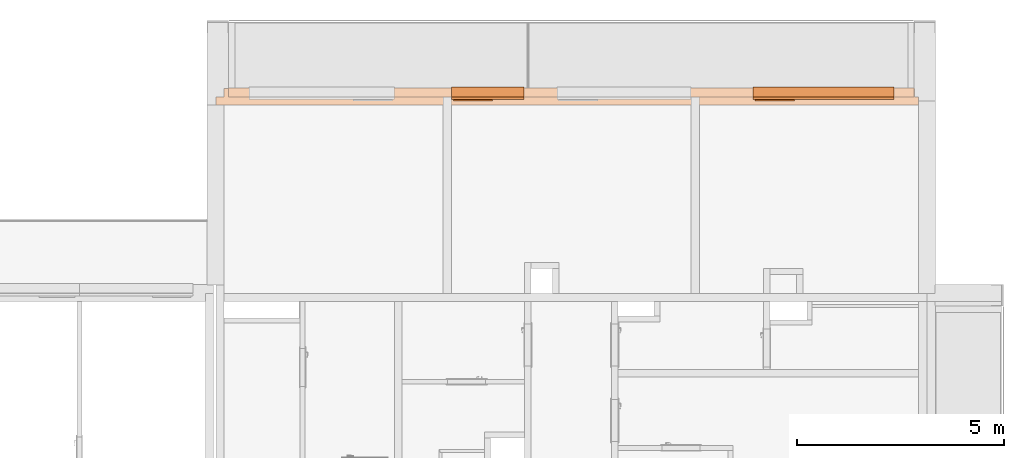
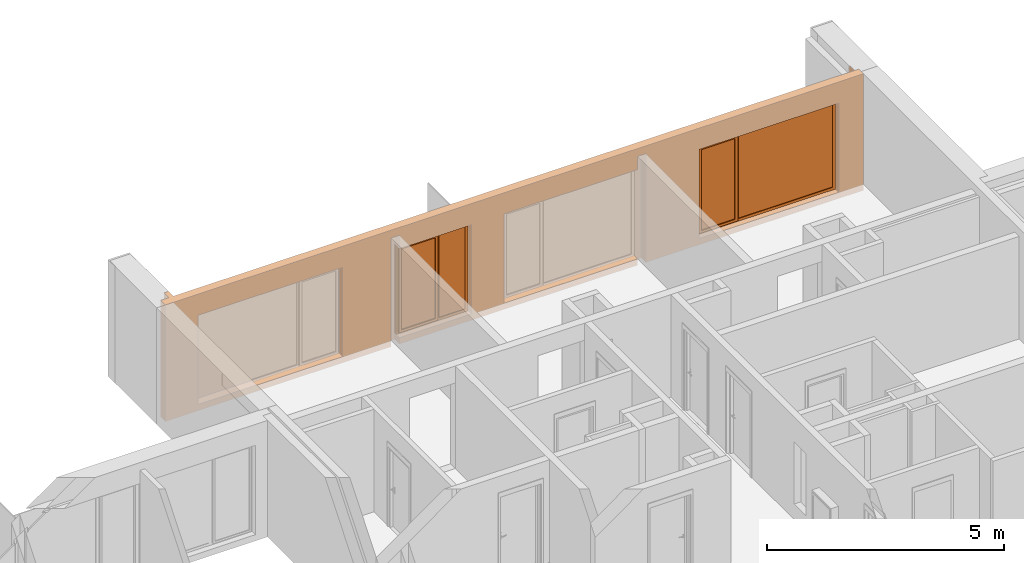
# One storey, part 49 of 64: 2 proxies, 4 openings, plus 1 element that does not belong to this part.
"""IFC2X3 building model written with IfcOpenShell, lengths in millimetres."""

import ifcopenshell
import ifcopenshell.guid

model = None  # the IFC model being written
_history = None  # IfcOwnerHistory: only IFC2X3 demands one
_inside = {}  # id of a spatial element -> (the spatial element, [elements in it])
_under = {}  # id of a project, library or spatial element -> (it, [spatial elements below it])
_declared = {}  # id of a project -> (the project, [libraries it declares])
_typed = {}  # id of a type object -> (the type object, [elements of that type])
_made_of = {}  # id of a material, layer set ... -> (it, [elements and type objects made of it])


def new_model(schema):
    """Start an empty IFC model of exactly this schema.

    Asked for "IFC4X3", IfcOpenShell would pick the latest addendum, in which some entities
    have other attributes; the version numbers below select the first issue.
    IFC2X3 requires an IfcOwnerHistory on every rooted entity: one is made here for all.
    """
    global model, _history
    if schema == "IFC4X3":
        model = ifcopenshell.file(schema_version=(4, 3, 0, 0))
    else:
        model = ifcopenshell.file(schema=schema)
    _inside.clear()
    _under.clear()
    _declared.clear()
    _typed.clear()
    _made_of.clear()
    _history = None
    if model.schema == "IFC2X3":
        org = make("IfcOrganization", Name="unknown")
        user = make(
            "IfcPersonAndOrganization",
            ThePerson=make("IfcPerson", FamilyName="unknown"),
            TheOrganization=org,
        )
        app = make(
            "IfcApplication",
            ApplicationDeveloper=org,
            Version="unknown",
            ApplicationFullName="unknown",
            ApplicationIdentifier="unknown",
        )
        _history = make(
            "IfcOwnerHistory",
            OwningUser=user,
            OwningApplication=app,
            ChangeAction="ADDED",
            CreationDate=0,
        )
    return model


def make(cls, **values):
    """One entity of the class cls with the attributes given. An attribute that is None is left unset."""
    return model.create_entity(
        cls, **{name: value for name, value in values.items() if value is not None}
    )


def entity(cls, *values):
    """Any entity or typed value of the class cls, its attributes in the order of the schema. None: left unset."""
    e = model.create_entity(cls)
    for i, value in enumerate(values):
        if value is not None:
            e[i] = value
    return e


def rooted(cls, **values):
    """An entity with a GlobalId (a new one), such as an element, a storey or a relation."""
    return make(cls, GlobalId=ifcopenshell.guid.new(), OwnerHistory=_history, **values)


def si_unit(unit_type, name, prefix=None):
    """IfcSIUnit, for example si_unit("LENGTHUNIT", "METRE", prefix="MILLI")."""
    return make("IfcSIUnit", UnitType=unit_type, Prefix=prefix, Name=name)


def converted_unit(unit_type, name, factor, base, dimensions=None, offset=None):
    """IfcConversionBasedUnit, such as the inch: factor (a typed value) times the base unit."""
    return make(
        "IfcConversionBasedUnit"
        if offset is None
        else "IfcConversionBasedUnitWithOffset",
        ConversionOffset=offset,
        Dimensions=None
        if dimensions is None
        else entity("IfcDimensionalExponents", *dimensions),
        UnitType=unit_type,
        Name=name,
        ConversionFactor=make(
            "IfcMeasureWithUnit", ValueComponent=factor, UnitComponent=base
        ),
    )


def derived_unit(unit_type, elements):
    """IfcDerivedUnit: a product of units, each with its exponent."""
    return make(
        "IfcDerivedUnit",
        Elements=[
            make("IfcDerivedUnitElement", Unit=unit, Exponent=power)
            for unit, power in elements
        ],
        UnitType=unit_type,
    )


def money_unit(currency):
    """IfcMonetaryUnit."""
    return make("IfcMonetaryUnit", Currency=currency)


def assignment(units):
    """IfcUnitAssignment: the units of a project."""
    return None if units is None else make("IfcUnitAssignment", Units=units)


def point(xyz):
    """IfcCartesianPoint."""
    return None if xyz is None else make("IfcCartesianPoint", Coordinates=xyz)


def direction(xyz):
    """IfcDirection."""
    return None if xyz is None else make("IfcDirection", DirectionRatios=xyz)


def frame(location, z_axis=None, x_axis=None):
    """IfcAxis2Placement3D, a coordinate frame: its origin and axes. An axis left out is left unset."""
    return make(
        "IfcAxis2Placement3D",
        Location=point(location),
        Axis=direction(z_axis),
        RefDirection=direction(x_axis),
    )


def frame_2d(location, x_axis=None):
    """IfcAxis2Placement2D, a coordinate frame in the plane: its origin and x axis."""
    return make(
        "IfcAxis2Placement2D", Location=point(location), RefDirection=direction(x_axis)
    )


def origin_with_axes():
    """The frame at (0, 0, 0) with the z axis (0, 0, 1) and the x axis (1, 0, 0) written out."""
    return frame((0.0, 0.0, 0.0), z_axis=(0.0, 0.0, 1.0), x_axis=(1.0, 0.0, 0.0))


def origin_2d_with_axis():
    """The frame at (0, 0) in the plane with the x axis (1, 0) written out."""
    return frame_2d((0.0, 0.0), x_axis=(1.0, 0.0))


def place(relative_to, where):
    """IfcLocalPlacement: puts the frame where relative to a parent placement (None: the world)."""
    return make(
        "IfcLocalPlacement", PlacementRelTo=relative_to, RelativePlacement=where
    )


def context(
    kind, dimensions, precision=None, world=None, true_north=None, identifier=None
):
    """IfcGeometricRepresentationContext, for example the 3D "Model" context."""
    return make(
        "IfcGeometricRepresentationContext",
        ContextIdentifier=identifier,
        ContextType=kind,
        CoordinateSpaceDimension=dimensions,
        Precision=precision,
        WorldCoordinateSystem=world,
        TrueNorth=true_north,
    )


def subcontext(parent, identifier, kind, view, scale=None):
    """IfcGeometricRepresentationSubContext, for example "Body" below "Model"."""
    return make(
        "IfcGeometricRepresentationSubContext",
        ContextIdentifier=identifier,
        ContextType=kind,
        ParentContext=parent,
        TargetScale=scale,
        TargetView=view,
    )


def project(units=None, contexts=None):
    """IfcProject with its units and contexts."""
    return rooted(
        "IfcProject",
        Name="project",
        RepresentationContexts=contexts,
        UnitsInContext=assignment(units),
    )


def spatial(cls, under=None, at=None, **own):
    """A site, building, storey or space (cls), placed at a placement, below another one or the project."""
    s = rooted(cls, ObjectPlacement=at, **own)
    if under is not None:
        _under.setdefault(under.id(), (under, []))[1].append(s)
    return s


def profile(cls, at=None, kind="AREA", **sizes):
    """A parametric profile (cls). Its sizes go by their IFC names, for example OverallWidth=200.0."""
    return make(cls, ProfileType=kind, Position=at, **sizes)


def rectangle(**sizes):
    """IfcRectangleProfileDef."""
    return profile("IfcRectangleProfileDef", **sizes)


def extrude(swept, where, along, depth):
    """IfcExtrudedAreaSolid: the profile swept, set in the frame where, extruded along a direction by depth."""
    return make(
        "IfcExtrudedAreaSolid",
        SweptArea=swept,
        Position=where,
        ExtrudedDirection=direction(along),
        Depth=depth,
    )


def faces_of(points, faces, orient=None, outer=None):
    """IfcFace entities. A face is a list of loops; a loop is a list of indices into points, from 0.

    orient and outer hold one flag for each loop. By default every Orientation is true, the
    first loop of a face is its IfcFaceOuterBound and the others are IfcFaceBound.
    """
    made = []
    for i, loops in enumerate(faces):
        bounds = []
        for j, loop in enumerate(loops):
            is_outer = j == 0 if outer is None else outer[i][j]
            bounds.append(
                make(
                    "IfcFaceOuterBound" if is_outer else "IfcFaceBound",
                    Bound=make("IfcPolyLoop", Polygon=[points[k] for k in loop]),
                    Orientation=True if orient is None else orient[i][j],
                )
            )
        made.append(make("IfcFace", Bounds=bounds))
    return made


def open_shell(faces, orient=None, outer=None):
    """The faces of one IfcOpenShell. surface_model builds it on its shared points."""
    return ("IfcOpenShell", faces, orient, outer)


def faceted_brep(points, faces, orient=None, outer=None, voids=None):
    """IfcFacetedBrep: a solid bounded by flat faces; with voids (closed shells), ...WithVoids."""
    shared = [point(p) for p in points]
    hull = make("IfcClosedShell", CfsFaces=faces_of(shared, faces, orient, outer))
    if voids is None:
        return make("IfcFacetedBrep", Outer=hull)
    return make(
        "IfcFacetedBrepWithVoids",
        Outer=hull,
        Voids=[
            make(cls, CfsFaces=faces_of(shared, fs, o, b)) for cls, fs, o, b in voids
        ],
    )


def surface_model(cls, points, shells):
    """IfcFaceBasedSurfaceModel or IfcShellBasedSurfaceModel (cls): surfaces that need not close."""
    shared = [point(p) for p in points]
    made = [make(c, CfsFaces=faces_of(shared, fs, o, b)) for c, fs, o, b in shells]
    if cls == "IfcFaceBasedSurfaceModel":
        return make(cls, FbsmFaces=made)
    return make(cls, SbsmBoundary=made)


def shape(context_of_items, identifier, shape_type, items):
    """IfcShapeRepresentation: the items that make up one representation, for example the "Body"."""
    return make(
        "IfcShapeRepresentation",
        ContextOfItems=context_of_items,
        RepresentationIdentifier=identifier,
        RepresentationType=shape_type,
        Items=items,
    )


def source(mapping_origin, context_of_items, identifier, shape_type, items):
    """IfcRepresentationMap: a shape defined once, which mapped items show again and again."""
    return make(
        "IfcRepresentationMap",
        MappingOrigin=mapping_origin,
        MappedRepresentation=shape(context_of_items, identifier, shape_type, items),
    )


def transform(
    local_origin,
    x_axis=None,
    y_axis=None,
    z_axis=None,
    scale=None,
    scale2=None,
    scale3=None,
    uniform=True,
):
    """IfcCartesianTransformationOperator3D, or its non-uniform kind. x_axis, y_axis, z_axis: its Axis1, 2, 3."""
    if uniform:
        return make(
            "IfcCartesianTransformationOperator3D",
            Axis1=direction(x_axis),
            Axis2=direction(y_axis),
            LocalOrigin=point(local_origin),
            Scale=scale,
            Axis3=direction(z_axis),
        )
    return make(
        "IfcCartesianTransformationOperator3DnonUniform",
        Axis1=direction(x_axis),
        Axis2=direction(y_axis),
        LocalOrigin=point(local_origin),
        Scale=scale,
        Axis3=direction(z_axis),
        Scale2=scale2,
        Scale3=scale3,
    )


def mapped(mapping_source, mapping_target):
    """IfcMappedItem: shows the shape of a source again, moved by a transform."""
    return make(
        "IfcMappedItem", MappingSource=mapping_source, MappingTarget=mapping_target
    )


def material(Name=None, Category=None):
    """IfcMaterial."""
    return make("IfcMaterial", Name=Name, Category=Category)


def material_list(materials):
    """IfcMaterialList."""
    return make("IfcMaterialList", Materials=materials)


def made_of(thing, what):
    """Note that an element or type object is made of a material, layer set ...; save() writes the relation."""
    if what is not None:
        _made_of.setdefault(what.id(), (what, []))[1].append(thing)
    return thing


def type_object(cls, material=None, **own):
    """A type object (cls), such as IfcWallType, which elements share."""
    return made_of(rooted(cls, **own), material)


def element(
    cls,
    number,
    at=None,
    inside=None,
    cuts=None,
    type_object=None,
    material=None,
    context=None,
    identifier="Body",
    shape_type=None,
    held_by="IfcProductDefinitionShape",
    body=None,
    shapes=None,
    **own,
):
    """One element of the class cls, such as IfcWall. Its Tag is "e" and its number.

    at: its placement. inside: the storey or other place that contains it. cuts: it is an
    opening in that element (IfcRelVoidsElement). A single representation is given by context,
    identifier, shape_type and body (its items); several are given by shapes. held_by: the class
    of the entity that holds the representations. save() writes the other relations.
    """
    e = rooted(cls, Tag="e%d" % number, ObjectPlacement=at, **own)
    if body is not None:
        shapes = [shape(context, identifier, shape_type, body)]
    if shapes is not None:
        e.Representation = make(held_by, Representations=shapes)
    if inside is not None:
        _inside.setdefault(inside.id(), (inside, []))[1].append(e)
    if cuts is not None:
        rooted(
            "IfcRelVoidsElement", RelatingBuildingElement=cuts, RelatedOpeningElement=e
        )
    if type_object is not None:
        _typed.setdefault(type_object.id(), (type_object, []))[1].append(e)
    return made_of(e, material)


def fill(opening, filler):
    """IfcRelFillsElement: the door or window that sits in an opening."""
    return rooted(
        "IfcRelFillsElement",
        RelatingOpeningElement=opening,
        RelatedBuildingElement=filler,
    )


def aggregate(whole, parts):
    """IfcRelAggregates: a whole, such as a stair, and the parts it consists of."""
    return rooted("IfcRelAggregates", RelatingObject=whole, RelatedObjects=parts)


def save(model, path):
    """Write the relations noted so far, then the file.

    IfcRelAggregates (storeys below a building ...), IfcRelContainedInSpatialStructure (elements
    in a storey), IfcRelDefinesByType, IfcRelAssociatesMaterial and IfcRelDeclares: one each for
    every whole, place, type object, material and project.
    """
    for whole, parts in _under.values():
        aggregate(whole, parts)
    for where, things in _inside.values():
        rooted(
            "IfcRelContainedInSpatialStructure",
            RelatedElements=things,
            RelatingStructure=where,
        )
    for kind, things in _typed.values():
        rooted("IfcRelDefinesByType", RelatedObjects=things, RelatingType=kind)
    for what, things in _made_of.values():
        rooted("IfcRelAssociatesMaterial", RelatedObjects=things, RelatingMaterial=what)
    for by, libraries in _declared.values():
        rooted("IfcRelDeclares", RelatingContext=by, RelatedDefinitions=libraries)
    model.write(path)


model = new_model("IFC2X3")

# Units and contexts
model_context = context("Model", 3, precision=0.01, world=origin_with_axes(), true_north=direction((0.34421633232, 0.938890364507)))
body_context = subcontext(model_context, "Body", "Model", "MODEL_VIEW")
ifc_project = project(units=[si_unit("LENGTHUNIT", "METRE", prefix="MILLI"), si_unit("AREAUNIT", "SQUARE_METRE"), si_unit("VOLUMEUNIT", "CUBIC_METRE"), converted_unit("PLANEANGLEUNIT", "DEGREE", entity("IfcPlaneAngleMeasure", 0.0174532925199), si_unit("PLANEANGLEUNIT", "RADIAN"), dimensions=[0, 0, 0, 0, 0, 0, 0]), si_unit("SOLIDANGLEUNIT", "STERADIAN"), money_unit("USD"), converted_unit("TIMEUNIT", "Year", entity("IfcTimeMeasure", 31556926.0), si_unit("TIMEUNIT", "SECOND"), dimensions=[0, 0, 1, 0, 0, 0, 0]), si_unit("MASSUNIT", "GRAM", prefix="KILO"), si_unit("THERMODYNAMICTEMPERATUREUNIT", "DEGREE_CELSIUS"), si_unit("LUMINOUSINTENSITYUNIT", "LUMEN"), si_unit("ENERGYUNIT", "JOULE", prefix="MEGA"), derived_unit("THERMALCONDUCTANCEUNIT", [(si_unit("POWERUNIT", "WATT"), 1), (si_unit("LENGTHUNIT", "METRE"), -1), (si_unit("THERMODYNAMICTEMPERATUREUNIT", "KELVIN"), -1)]), derived_unit("SPECIFICHEATCAPACITYUNIT", [(si_unit("ENERGYUNIT", "JOULE"), 1), (si_unit("MASSUNIT", "GRAM", prefix="KILO"), -1), (si_unit("THERMODYNAMICTEMPERATUREUNIT", "KELVIN"), -1)]), derived_unit("MASSDENSITYUNIT", [(si_unit("MASSUNIT", "GRAM", prefix="KILO"), 1), (si_unit("VOLUMEUNIT", "CUBIC_METRE"), -1)])], contexts=[model_context])

# Site, building, storey
site_placement = place(None, origin_with_axes())
site = spatial("IfcSite", under=ifc_project, at=site_placement, Name="USTRONIE MORSKIE", CompositionType="ELEMENT")
building_placement = place(site_placement, origin_with_axes())
building = spatial("IfcBuilding", under=site, at=building_placement, Name="Budynek", CompositionType="ELEMENT")
storey_placement = place(building_placement, frame((0.0, 0.0, 7000.0), z_axis=(0.0, 0.0, 1.0), x_axis=(1.0, 0.0, 0.0)))
storey = spatial("IfcBuildingStorey", under=building, at=storey_placement, Name="PIĘTRO 2", CompositionType="ELEMENT", Elevation=7000.0)

# Proxies, openings
ifc_material_1 = material(Name="Beton konstrukcyjny B25")
ifc_material_2 = material(Name="Wełna ELEW")
ifc_material_3 = material(Name="Tynk zewnętrzny")
ifc_material_list = material_list([ifc_material_1, ifc_material_2, ifc_material_3])
building_element_proxy_type_1 = type_object("IfcBuildingElementProxyType", Name="20+20 410", PredefinedType="NOTDEFINED")
proxy_1_placement = place(storey_placement, frame((425567.928129, 749451.184716, -160.0), z_axis=(0.0, 0.0, 1.0), x_axis=(-1.0, 8.42333606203e-07, 0.0)))
proxy_1 = element("IfcBuildingElementProxy", 1, at=proxy_1_placement, inside=storey, type_object=building_element_proxy_type_1, material=ifc_material_list, Name="SZ-01", context=body_context, shape_type="Brep", body=[
    faceted_brep([(11400.0072945, -100.0, 0.0), (11400.0072945, -99.9999999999, 2800.0), (11600.0072945, -99.9999999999, 2800.0), (11600.0072945, -100.0, 0.0), (17100.0072945, -100.0, -4.94591034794e-08), (17100.0072945, -100.0, 3000.0), (100.007294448, -99.9999999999, 3000.0), (100.007294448, -99.9999999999, -1.44982692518e-07), (5400.00729445, -100.0, 0.0), (5400.00729445, -100.0, 2800.0), (5600.00729445, -100.0, 2800.0), (5600.00729445, -100.0, 0.0), (11400.007126, 100.0, 0.0), (11400.007126, 100.0, 2800.0), (11600.007126, 100.0, 2800.0), (11600.007126, 100.0, 0.0), (17100.007126, 100.0, -4.94591034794e-08), (17100.007126, 100.0, 3000.0), (100.007125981, 100.0, 3000.0), (100.007210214, 8.42334202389e-05, 3000.0), (100.007210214, 8.42334202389e-05, 0.0), (100.007125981, 100.0, 0.0), (5400.00712598, 100.0, 0.0), (5400.00712598, 100.0, 2800.0), (5600.00712598, 100.0, 2800.0), (5600.00712598, 100.0, 0.0)], [[[0, 1, 2, 3, 4, 5, 6, 7, 8, 9, 10, 11]], [[12, 13, 1, 0]], [[13, 14, 2, 1]], [[14, 15, 3, 2]], [[16, 4, 3, 15]], [[4, 16, 17, 5]], [[5, 17, 18, 19, 6]], [[19, 20, 7, 6]], [[20, 21, 22, 8, 7]], [[22, 23, 9, 8]], [[23, 24, 10, 9]], [[24, 25, 11, 10]], [[11, 25, 12, 0]], [[15, 14, 13, 12, 25, 24, 23, 22, 21, 18, 17, 16]], [[21, 20, 19, 18]]]),
    faceted_brep([(16900.0072945, -100.0, -8.13678013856e-08), (16900.0072945, -100.0, 3000.0), (16900.0074629, -300.0, 3000.0), (16900.0074629, -300.0, -8.13678013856e-08), (200.007294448, -99.9999999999, -2.8271545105e-06), (200.007294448, -99.9999999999, 3000.0), (1425.3540558, -99.9999999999, 3000.0), (1425.3540558, -99.9999999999, 2799.99999896), (16790.1383035, -100.0, 2799.99999896), (16790.1383035, -100.0, 3000.0), (16790.1393008, -199.846511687, 3000.00002271), (16790.1402996, -299.846536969, 3000.00002271), (16790.1403011, -300.0, 2999.99999495), (16790.1403011, -300.0, 9.99999623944), (16790.1403011, -300.0, 2.27125616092e-05), (16790.1403011, -300.0, 2800.00001288), (210.140300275, -300.0, 2800.00001286), (210.140300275, -300.0, 3000.0), (200.007462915, -300.0, 3000.0), (200.007462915, -300.0, -2.8271545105e-06), (1425.04762404, -300.0, 2.27125616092e-05), (1422.91502502, -300.0, 9.99999623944), (16790.1402996, -299.846536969, 2.27125616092e-05), (210.139301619, -200.012108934, 3000.00002271), (210.138302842, -100.012137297, 3000.00002048), (210.138302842, -100.012137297, 2799.99999896), (210.139301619, -200.012108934, 2799.99999896), (16790.1393008, -199.846511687, 2799.99999896), (16790.1402996, -299.84651567, 9.99999623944)], [[[0, 1, 2, 3]], [[1, 0, 4, 5, 6, 7, 8, 9]], [[10, 11, 12, 2, 1, 9]], [[13, 14, 3, 2, 12, 15, 16, 17, 18, 19, 20, 21]], [[0, 3, 14, 22, 20, 19, 4]], [[5, 4, 19, 18]], [[6, 5, 18, 17, 23, 24]], [[7, 6, 24, 25]], [[26, 27, 8, 7, 25]], [[11, 10, 9, 8, 27, 15, 12]], [[28, 22, 14, 13]], [[27, 26, 16, 15]], [[16, 26, 25, 24, 23, 17]], [[22, 28, 21, 20]], [[28, 13, 21]]]),
    faceted_brep([(16800.0074629, -300.0, -9.73230385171e-08), (16800.0074713, -310.0, -9.73230385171e-08), (16790.140401, -310.0, -9.89466286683e-08), (16790.1403011, -300.0, -9.89466286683e-08), (16800.0074629, -300.0, 3000.0), (16800.0074713, -310.0, 3000.0), (16790.140401, -310.0, 9.99999623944), (16790.140401, -310.0, 2999.9999951), (16790.140401, -310.0, 2789.99999183), (1365.56748394, -310.0, 2789.99999183), (1414.0415408, -310.0, 2800.00001425), (210.140400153, -310.0, 2800.00001425), (210.140400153, -310.0, 2999.9999951), (210.007471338, -310.0, 3000.0), (210.007471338, -310.0, -2.8271545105e-06), (210.140400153, -310.0, 2.27125616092e-05), (210.140400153, -310.0, 9.99999623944), (16790.1403011, -300.0, 9.99999623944), (1422.91503021, -300.0, 9.99999623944), (1422.91503018, -300.0, -2.62757460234e-06), (210.007462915, -300.0, -2.8271545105e-06), (210.007462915, -300.0, 3000.0), (210.140300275, -300.0, 3000.0), (210.140300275, -300.0, 2800.00001286), (16790.1403011, -300.0, 2800.00001288), (16790.1403011, -300.0, 2999.99999495), (16790.1403994, -309.845942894, 2789.99999183), (16790.1403994, -309.846427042, 2800.00001425), (210.140300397, -300.012134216, 3000.00002271), (210.140300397, -300.012134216, 2.27125616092e-05), (210.140300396, -300.012112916, 9.99999623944)], [[[0, 1, 2, 3]], [[0, 4, 5, 1]], [[6, 2, 1, 5, 7, 8, 9, 10, 11, 12, 13, 14, 15, 16]], [[2, 6, 17, 3]], [[4, 0, 3, 17, 18, 19, 20, 21, 22, 23, 24, 25]], [[25, 7, 5, 4]], [[26, 8, 7, 25, 24, 27]], [[8, 26, 9]], [[26, 27, 10, 9]], [[27, 24, 23, 11, 10]], [[12, 11, 23, 22, 28]], [[12, 28, 22, 21, 13]], [[21, 20, 14, 13]], [[19, 29, 15, 14, 20]], [[16, 15, 29, 30]], [[17, 6, 16, 30, 18]], [[29, 19, 18, 30]]]),
])
opening_1_placement = place(proxy_1_placement, frame((14540.0100422, 0.0, 160.0), z_axis=(0.0, 0.0, 1.0), x_axis=(1.0, 0.0, 0.0)))
element("IfcOpeningElement", 2, at=opening_1_placement, cuts=proxy_1, Name="Wz.02", context=body_context, shape_type="SweptSolid", body=[
    extrude(rectangle(XDim=3520.00004519, YDim=2300.0, at=origin_2d_with_axis()), frame((0.0, -100.0, 1150.0), z_axis=(0.0, -1.0, 0.0), x_axis=(-1.0, 0.0, 0.0)), (0.0, 0.0, 1.0), 620.0),
    extrude(rectangle(XDim=3520.00004519, YDim=2300.0, at=origin_2d_with_axis()), frame((0.0, -100.0, 1150.0), z_axis=(0.0, 1.0, 0.0), x_axis=(-1.0, 0.0, 0.0)), (0.0, 0.0, 1.0), 610.0),
])
opening_2_placement = place(proxy_1_placement, frame((7225.00654666, 0.0, 160.0), z_axis=(0.0, 0.0, 1.0), x_axis=(1.0, 0.0, 0.0)))
element("IfcOpeningElement", 3, at=opening_2_placement, cuts=proxy_1, Name="Wz.02", context=body_context, shape_type="SweptSolid", body=[
    extrude(rectangle(XDim=3249.99884135, YDim=2300.0, at=origin_2d_with_axis()), frame((0.0, -100.0, 1150.0), z_axis=(0.0, 1.0, 0.0), x_axis=(1.0, 0.0, 0.0)), (0.0, 0.0, -1.0), 620.0),
    extrude(rectangle(XDim=3249.99884135, YDim=2300.0, at=origin_2d_with_axis()), frame((-1.13686837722e-10, -100.0, 1150.0), z_axis=(0.0, -1.0, 0.0), x_axis=(1.0, 0.0, 0.0)), (0.0, 0.0, -1.0), 610.0),
])
opening_3_placement = place(proxy_1_placement, frame((2400.00971943, 1.13686837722e-10, 160.0), z_axis=(0.0, 0.0, 1.0), x_axis=(1.0, 0.0, 0.0)))
opening_3 = element("IfcOpeningElement", 4, at=opening_3_placement, cuts=proxy_1, Name="Wz.02", context=body_context, shape_type="SweptSolid", body=[
    extrude(rectangle(XDim=3400.0, YDim=2300.0, at=origin_2d_with_axis()), frame((0.0, -100.0, 1150.0), z_axis=(0.0, 1.0, 0.0), x_axis=(1.0, 0.0, 0.0)), (0.0, 0.0, -1.0), 620.0),
    extrude(rectangle(XDim=3400.0, YDim=2300.0, at=origin_2d_with_axis()), frame((0.0, -100.0, 1150.0), z_axis=(0.0, -1.0, 0.0), x_axis=(1.0, 0.0, 0.0)), (0.0, 0.0, -1.0), 610.0),
])
opening_4_placement = place(proxy_1_placement, frame((10525.0074713, 1.13686837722e-10, 160.0), z_axis=(0.0, 0.0, 1.0), x_axis=(1.0, 0.0, 0.0)))
opening_4 = element("IfcOpeningElement", 5, at=opening_4_placement, cuts=proxy_1, Name="Wz.01", context=body_context, shape_type="SweptSolid", body=[
    extrude(rectangle(XDim=1750.0, YDim=2300.0, at=origin_2d_with_axis()), frame((0.0, -100.0, 1150.0), z_axis=(0.0, 1.0, 0.0), x_axis=(1.0, 0.0, 0.0)), (0.0, 0.0, -1.0), 620.0),
    extrude(rectangle(XDim=1750.0, YDim=2300.0, at=origin_2d_with_axis()), frame((0.0, -100.0, 1150.0), z_axis=(0.0, -1.0, 0.0), x_axis=(1.0, 0.0, 0.0)), (0.0, 0.0, -1.0), 610.0),
])
building_element_proxy_type_2 = type_object("IfcBuildingElementProxyType", Name="Okno podwójne 23", PredefinedType="NOTDEFINED")
shared_shape_1 = source(origin_with_axes(), body_context, "Body", "SurfaceModel", [
    surface_model("IfcShellBasedSurfaceModel", [(-875.0, -66.0, 50.0), (-875.0, -66.0, 40.0), (875.0, -66.0, 40.0), (875.0, -66.0, 50.0), (-875.0, -305.0, 28.5714285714), (875.0, -305.0, 28.5714285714), (-875.0, -305.0, 8.57142857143), (875.0, -305.0, 8.57142857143), (-875.0, -295.0, 18.5714285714), (875.0, -295.0, 18.5714285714)], [open_shell([[[0, 1, 2, 3]], [[1, 4, 5, 2]], [[4, 6, 7, 5]], [[6, 8, 9, 7]]])]),
    faceted_brep([(805.0, -25.0, 2230.0), (805.0, -65.0, 2230.0), (875.0, -65.0, 2230.0), (875.0, 0.0, 2230.0), (830.0, 0.0, 2230.0), (830.0, -25.0, 2230.0), (805.0, -25.0, 70.0), (805.0, -65.0, 70.0), (875.0, -65.0, 70.0), (875.0, 0.0, 70.0), (830.0, 0.0, 70.0), (830.0, -25.0, 70.0)], [[[0, 1, 2, 3, 4, 5]], [[6, 7, 1, 0]], [[8, 2, 1, 7]], [[9, 3, 2, 8]], [[4, 3, 9, 10]], [[10, 11, 5, 4]], [[5, 11, 6, 0]], [[11, 10, 9, 8, 7, 6]]]),
    faceted_brep([(-122.5, 0.0, 2230.0), (-162.5, 0.0, 2230.0), (-162.5, -65.0, 2230.0), (-97.5, -65.0, 2230.0), (-97.5, -25.0, 2230.0), (-122.5, -25.0, 2230.0), (-122.5, 0.0, 70.0), (-162.5, 0.0, 70.0), (-162.5, -65.0, 70.0), (-97.5, -65.0, 70.0), (-97.5, -25.0, 70.0), (-122.5, -25.0, 70.0)], [[[0, 1, 2, 3, 4, 5]], [[6, 7, 1, 0]], [[1, 7, 8, 2]], [[9, 3, 2, 8]], [[4, 3, 9, 10]], [[10, 11, 5, 4]], [[5, 11, 6, 0]], [[11, 10, 9, 8, 7, 6]]]),
    faceted_brep([(805.0, -25.0, 70.0), (805.0, -65.0, 70.0), (875.0, -65.0, 70.0), (875.0, 0.0, 70.0), (830.0, 0.0, 70.0), (830.0, -25.0, 70.0), (-97.5, -25.0, 70.0), (-97.5, -65.0, 70.0), (-875.0, -65.0, 70.0), (-875.0, -65.0, 0.0), (875.0, -65.0, 0.0), (-162.5, -65.0, 70.0), (-805.0, -65.0, 70.0), (875.0, 0.0, 0.0), (-122.5, 0.0, 45.0), (830.0, 0.0, 45.0), (-875.0, 0.0, 0.0), (-875.0, 0.0, 70.0), (-805.0, 0.0, 70.0), (-162.5, 0.0, 70.0), (-122.5, 0.0, 70.0), (830.0, -25.0, 45.0), (-122.5, -25.0, 45.0), (-122.5, -25.0, 70.0)], [[[0, 1, 2, 3, 4, 5]], [[6, 7, 1, 0]], [[8, 9, 10, 2, 1, 7, 11, 12]], [[13, 3, 2, 10]], [[14, 15, 4, 3, 13, 16, 17, 18, 19, 20]], [[15, 21, 5, 4]], [[5, 21, 22, 23, 6, 0]], [[23, 20, 19, 11, 7, 6]], [[17, 16, 9, 8]], [[16, 13, 10, 9]], [[19, 18, 12, 11]], [[18, 17, 8, 12]], [[14, 22, 21, 15]], [[23, 22, 14, 20]]]),
    faceted_brep([(-122.5, 0.0, 2230.0), (-162.5, 0.0, 2230.0), (-805.0, 0.0, 2230.0), (-875.0, 0.0, 2230.0), (-875.0, 0.0, 2300.0), (875.0, 0.0, 2300.0), (875.0, 0.0, 2230.0), (830.0, 0.0, 2230.0), (830.0, 0.0, 2255.0), (-122.5, 0.0, 2255.0), (-122.5, -25.0, 2230.0), (-97.5, -25.0, 2230.0), (-97.5, -65.0, 2230.0), (-162.5, -65.0, 2230.0), (-805.0, -65.0, 2230.0), (-875.0, -65.0, 2230.0), (-875.0, -65.0, 2300.0), (875.0, -65.0, 2300.0), (875.0, -65.0, 2230.0), (830.0, -25.0, 2230.0), (805.0, -65.0, 2230.0), (805.0, -25.0, 2230.0), (830.0, -25.0, 2255.0), (-122.5, -25.0, 2255.0)], [[[0, 1, 2, 3, 4, 5, 6, 7, 8, 9]], [[10, 11, 12, 13, 1, 0]], [[2, 1, 13, 14]], [[3, 2, 14, 15]], [[4, 3, 15, 16]], [[5, 4, 16, 17]], [[6, 5, 17, 18]], [[19, 7, 6, 18, 20, 21]], [[7, 19, 22, 8]], [[8, 22, 23, 9]], [[9, 23, 10, 0]], [[21, 11, 10, 23, 22, 19]], [[21, 20, 12, 11]], [[12, 20, 18, 17, 16, 15, 14, 13]]]),
    faceted_brep([(-805.0, -65.0, 2230.0), (-805.0, 0.0, 2230.0), (-875.0, 0.0, 2230.0), (-875.0, -65.0, 2230.0), (-805.0, -65.0, 70.0), (-805.0, 0.0, 70.0), (-875.0, 0.0, 70.0), (-875.0, -65.0, 70.0)], [[[0, 1, 2, 3]], [[4, 5, 1, 0]], [[1, 5, 6, 2]], [[3, 2, 6, 7]], [[0, 3, 7, 4]], [[7, 6, 5, 4]]]),
    surface_model("IfcShellBasedSurfaceModel", [(-805.0, -35.0, 70.0), (-162.5, -35.0, 70.0), (-162.5, -35.0, 2230.0), (-805.0, -35.0, 2230.0)], [open_shell([[[0, 1, 2, 3]]])]),
    surface_model("IfcShellBasedSurfaceModel", [(-805.0, -15.0, 70.0), (-805.0, -15.0, 2230.0), (-162.5, -15.0, 2230.0), (-162.5, -15.0, 70.0)], [open_shell([[[0, 1, 2, 3]]])]),
    faceted_brep([(-57.5, -25.0, 2190.0), (-57.5, 40.0, 2190.0), (-122.5, 40.0, 2190.0), (-122.5, -25.0, 2190.0), (-57.5, -25.0, 110.0), (-57.5, 40.0, 110.0), (-122.5, 40.0, 110.0), (-122.5, -25.0, 110.0)], [[[0, 1, 2, 3]], [[4, 5, 1, 0]], [[1, 5, 6, 2]], [[3, 2, 6, 7]], [[0, 3, 7, 4]], [[7, 6, 5, 4]]]),
    faceted_brep([(765.0, -25.0, 110.0), (765.0, 40.0, 110.0), (830.0, 40.0, 110.0), (830.0, -25.0, 110.0), (765.0, -25.0, 2190.0), (765.0, 40.0, 2190.0), (830.0, 40.0, 2190.0), (830.0, -25.0, 2190.0)], [[[0, 1, 2, 3]], [[4, 5, 1, 0]], [[1, 5, 6, 2]], [[3, 2, 6, 7]], [[0, 3, 7, 4]], [[7, 6, 5, 4]]]),
    faceted_brep([(830.0, -25.0, 45.0), (830.0, 40.0, 45.0), (830.0, 40.0, 110.0), (830.0, -25.0, 110.0), (-122.5, -25.0, 45.0), (-122.5, 40.0, 45.0), (-122.5, 40.0, 110.0), (-57.5, 40.0, 110.0), (765.0, 40.0, 110.0), (765.0, -25.0, 110.0), (-57.5, -25.0, 110.0), (-122.5, -25.0, 110.0)], [[[0, 1, 2, 3]], [[4, 5, 1, 0]], [[1, 5, 6, 7, 8, 2]], [[3, 2, 8, 9]], [[0, 3, 9, 10, 11, 4]], [[11, 6, 5, 4]], [[10, 7, 6, 11]], [[9, 8, 7, 10]]]),
    faceted_brep([(-122.5, -25.0, 2255.0), (-122.5, 40.0, 2255.0), (-122.5, 40.0, 2190.0), (-122.5, -25.0, 2190.0), (830.0, -25.0, 2255.0), (830.0, 40.0, 2255.0), (830.0, 40.0, 2190.0), (765.0, 40.0, 2190.0), (-57.5, 40.0, 2190.0), (-57.5, -25.0, 2190.0), (765.0, -25.0, 2190.0), (830.0, -25.0, 2190.0)], [[[0, 1, 2, 3]], [[4, 5, 1, 0]], [[1, 5, 6, 7, 8, 2]], [[3, 2, 8, 9]], [[0, 3, 9, 10, 11, 4]], [[11, 6, 5, 4]], [[10, 7, 6, 11]], [[9, 8, 7, 10]]]),
    surface_model("IfcShellBasedSurfaceModel", [(-57.5, -2.5, 110.0), (765.0, -2.5, 110.0), (765.0, -2.5, 2190.0), (-57.5, -2.5, 2190.0)], [open_shell([[[0, 1, 2, 3]]])]),
    surface_model("IfcShellBasedSurfaceModel", [(-57.5, 17.5, 110.0), (-57.5, 17.5, 2190.0), (765.0, 17.5, 2190.0), (765.0, 17.5, 110.0)], [open_shell([[[0, 1, 2, 3]]])]),
])
proxy_2_placement = place(opening_4_placement, frame((-875.0, -2.27373675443e-10, 0.0), z_axis=(0.0, 0.0, 1.0), x_axis=(1.0, 0.0, 0.0)))
proxy_2 = element("IfcBuildingElementProxy", 6, at=proxy_2_placement, inside=storey, type_object=building_element_proxy_type_2, Name="Wz.01", context=body_context, shape_type="MappedRepresentation", body=[
    mapped(shared_shape_1, transform((875.0, -35.0000000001, 0.0))),
])
fill(opening_4, proxy_2)
shared_shape_2 = source(origin_with_axes(), body_context, "Body", "SurfaceModel", [
    surface_model("IfcShellBasedSurfaceModel", [(-1700.0, -66.0, 50.0), (-1700.0, -66.0, 40.0), (1700.0, -66.0, 40.0), (1700.0, -66.0, 50.0), (-1700.0, -305.0, 28.5714285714), (1700.0, -305.0, 28.5714285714), (-1700.0, -305.0, 8.57142857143), (1700.0, -305.0, 8.57142857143), (-1700.0, -295.0, 18.5714285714), (1700.0, -295.0, 18.5714285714)], [open_shell([[[0, 1, 2, 3]], [[1, 4, 5, 2]], [[4, 6, 7, 5]], [[6, 8, 9, 7]]])]),
    faceted_brep([(1630.0, -25.0, 2230.0), (1630.0, -65.0, 2230.0), (1700.0, -65.0, 2230.0), (1700.0, 0.0, 2230.0), (1655.0, 0.0, 2230.0), (1655.0, -25.0, 2230.0), (1630.0, -25.0, 70.0), (1630.0, -65.0, 70.0), (1700.0, -65.0, 70.0), (1700.0, 0.0, 70.0), (1655.0, 0.0, 70.0), (1655.0, -25.0, 70.0)], [[[0, 1, 2, 3, 4, 5]], [[6, 7, 1, 0]], [[8, 2, 1, 7]], [[9, 3, 2, 8]], [[4, 3, 9, 10]], [[10, 11, 5, 4]], [[5, 11, 6, 0]], [[11, 10, 9, 8, 7, 6]]]),
    faceted_brep([(702.5, 0.0, 2230.0), (662.5, 0.0, 2230.0), (662.5, -65.0, 2230.0), (727.5, -65.0, 2230.0), (727.5, -25.0, 2230.0), (702.5, -25.0, 2230.0), (702.5, 0.0, 70.0), (662.5, 0.0, 70.0), (662.5, -65.0, 70.0), (727.5, -65.0, 70.0), (727.5, -25.0, 70.0), (702.5, -25.0, 70.0)], [[[0, 1, 2, 3, 4, 5]], [[6, 7, 1, 0]], [[1, 7, 8, 2]], [[9, 3, 2, 8]], [[4, 3, 9, 10]], [[10, 11, 5, 4]], [[5, 11, 6, 0]], [[11, 10, 9, 8, 7, 6]]]),
    faceted_brep([(1630.0, -25.0, 70.0), (1630.0, -65.0, 70.0), (1700.0, -65.0, 70.0), (1700.0, 0.0, 70.0), (1655.0, 0.0, 70.0), (1655.0, -25.0, 70.0), (727.5, -25.0, 70.0), (727.5, -65.0, 70.0), (-1700.0, -65.0, 70.0), (-1700.0, -65.0, 0.0), (1700.0, -65.0, 0.0), (662.5, -65.0, 70.0), (-1630.0, -65.0, 70.0), (1700.0, 0.0, 0.0), (702.5, 0.0, 45.0), (1655.0, 0.0, 45.0), (-1700.0, 0.0, 0.0), (-1700.0, 0.0, 70.0), (-1630.0, 0.0, 70.0), (662.5, 0.0, 70.0), (702.5, 0.0, 70.0), (1655.0, -25.0, 45.0), (702.5, -25.0, 45.0), (702.5, -25.0, 70.0)], [[[0, 1, 2, 3, 4, 5]], [[6, 7, 1, 0]], [[8, 9, 10, 2, 1, 7, 11, 12]], [[13, 3, 2, 10]], [[14, 15, 4, 3, 13, 16, 17, 18, 19, 20]], [[15, 21, 5, 4]], [[5, 21, 22, 23, 6, 0]], [[23, 20, 19, 11, 7, 6]], [[17, 16, 9, 8]], [[16, 13, 10, 9]], [[19, 18, 12, 11]], [[18, 17, 8, 12]], [[14, 22, 21, 15]], [[23, 22, 14, 20]]]),
    faceted_brep([(702.5, 0.0, 2230.0), (662.5, 0.0, 2230.0), (-1630.0, 0.0, 2230.0), (-1700.0, 0.0, 2230.0), (-1700.0, 0.0, 2300.0), (1700.0, 0.0, 2300.0), (1700.0, 0.0, 2230.0), (1655.0, 0.0, 2230.0), (1655.0, 0.0, 2255.0), (702.5, 0.0, 2255.0), (702.5, -25.0, 2230.0), (727.5, -25.0, 2230.0), (727.5, -65.0, 2230.0), (662.5, -65.0, 2230.0), (-1630.0, -65.0, 2230.0), (-1700.0, -65.0, 2230.0), (-1700.0, -65.0, 2300.0), (1700.0, -65.0, 2300.0), (1700.0, -65.0, 2230.0), (1655.0, -25.0, 2230.0), (1630.0, -65.0, 2230.0), (1630.0, -25.0, 2230.0), (1655.0, -25.0, 2255.0), (702.5, -25.0, 2255.0)], [[[0, 1, 2, 3, 4, 5, 6, 7, 8, 9]], [[10, 11, 12, 13, 1, 0]], [[2, 1, 13, 14]], [[3, 2, 14, 15]], [[4, 3, 15, 16]], [[5, 4, 16, 17]], [[6, 5, 17, 18]], [[19, 7, 6, 18, 20, 21]], [[7, 19, 22, 8]], [[8, 22, 23, 9]], [[9, 23, 10, 0]], [[21, 11, 10, 23, 22, 19]], [[21, 20, 12, 11]], [[12, 20, 18, 17, 16, 15, 14, 13]]]),
    faceted_brep([(-1630.0, -65.0, 2230.0), (-1630.0, 0.0, 2230.0), (-1700.0, 0.0, 2230.0), (-1700.0, -65.0, 2230.0), (-1630.0, -65.0, 70.0), (-1630.0, 0.0, 70.0), (-1700.0, 0.0, 70.0), (-1700.0, -65.0, 70.0)], [[[0, 1, 2, 3]], [[4, 5, 1, 0]], [[1, 5, 6, 2]], [[3, 2, 6, 7]], [[0, 3, 7, 4]], [[7, 6, 5, 4]]]),
    surface_model("IfcShellBasedSurfaceModel", [(-1630.0, -35.0, 70.0), (662.5, -35.0, 70.0), (662.5, -35.0, 2230.0), (-1630.0, -35.0, 2230.0)], [open_shell([[[0, 1, 2, 3]]])]),
    surface_model("IfcShellBasedSurfaceModel", [(-1630.0, -15.0, 70.0), (-1630.0, -15.0, 2230.0), (662.5, -15.0, 2230.0), (662.5, -15.0, 70.0)], [open_shell([[[0, 1, 2, 3]]])]),
    faceted_brep([(767.5, -25.0, 2190.0), (767.5, 40.0, 2190.0), (702.5, 40.0, 2190.0), (702.5, -25.0, 2190.0), (767.5, -25.0, 110.0), (767.5, 40.0, 110.0), (702.5, 40.0, 110.0), (702.5, -25.0, 110.0)], [[[0, 1, 2, 3]], [[4, 5, 1, 0]], [[1, 5, 6, 2]], [[3, 2, 6, 7]], [[0, 3, 7, 4]], [[7, 6, 5, 4]]]),
    faceted_brep([(1590.0, -25.0, 110.0), (1590.0, 40.0, 110.0), (1655.0, 40.0, 110.0), (1655.0, -25.0, 110.0), (1590.0, -25.0, 2190.0), (1590.0, 40.0, 2190.0), (1655.0, 40.0, 2190.0), (1655.0, -25.0, 2190.0)], [[[0, 1, 2, 3]], [[4, 5, 1, 0]], [[1, 5, 6, 2]], [[3, 2, 6, 7]], [[0, 3, 7, 4]], [[7, 6, 5, 4]]]),
    faceted_brep([(1655.0, -25.0, 45.0), (1655.0, 40.0, 45.0), (1655.0, 40.0, 110.0), (1655.0, -25.0, 110.0), (702.5, -25.0, 45.0), (702.5, 40.0, 45.0), (702.5, 40.0, 110.0), (767.5, 40.0, 110.0), (1590.0, 40.0, 110.0), (1590.0, -25.0, 110.0), (767.5, -25.0, 110.0), (702.5, -25.0, 110.0)], [[[0, 1, 2, 3]], [[4, 5, 1, 0]], [[1, 5, 6, 7, 8, 2]], [[3, 2, 8, 9]], [[0, 3, 9, 10, 11, 4]], [[11, 6, 5, 4]], [[10, 7, 6, 11]], [[9, 8, 7, 10]]]),
    faceted_brep([(702.5, -25.0, 2255.0), (702.5, 40.0, 2255.0), (702.5, 40.0, 2190.0), (702.5, -25.0, 2190.0), (1655.0, -25.0, 2255.0), (1655.0, 40.0, 2255.0), (1655.0, 40.0, 2190.0), (1590.0, 40.0, 2190.0), (767.5, 40.0, 2190.0), (767.5, -25.0, 2190.0), (1590.0, -25.0, 2190.0), (1655.0, -25.0, 2190.0)], [[[0, 1, 2, 3]], [[4, 5, 1, 0]], [[1, 5, 6, 7, 8, 2]], [[3, 2, 8, 9]], [[0, 3, 9, 10, 11, 4]], [[11, 6, 5, 4]], [[10, 7, 6, 11]], [[9, 8, 7, 10]]]),
    surface_model("IfcShellBasedSurfaceModel", [(767.5, -2.5, 110.0), (1590.0, -2.5, 110.0), (1590.0, -2.5, 2190.0), (767.5, -2.5, 2190.0)], [open_shell([[[0, 1, 2, 3]]])]),
    surface_model("IfcShellBasedSurfaceModel", [(767.5, 17.5, 110.0), (767.5, 17.5, 2190.0), (1590.0, 17.5, 2190.0), (1590.0, 17.5, 110.0)], [open_shell([[[0, 1, 2, 3]]])]),
])
proxy_3_placement = place(opening_3_placement, frame((-1700.0, -1.13686837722e-10, 0.0), z_axis=(0.0, 0.0, 1.0), x_axis=(1.0, 0.0, 0.0)))
proxy_3 = element("IfcBuildingElementProxy", 7, at=proxy_3_placement, inside=storey, type_object=building_element_proxy_type_2, Name="Wz.02", context=body_context, shape_type="MappedRepresentation", body=[
    mapped(shared_shape_2, transform((1700.0, -35.0000000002, 0.0))),
])
fill(opening_3, proxy_3)

save(model, "model.ifc")
